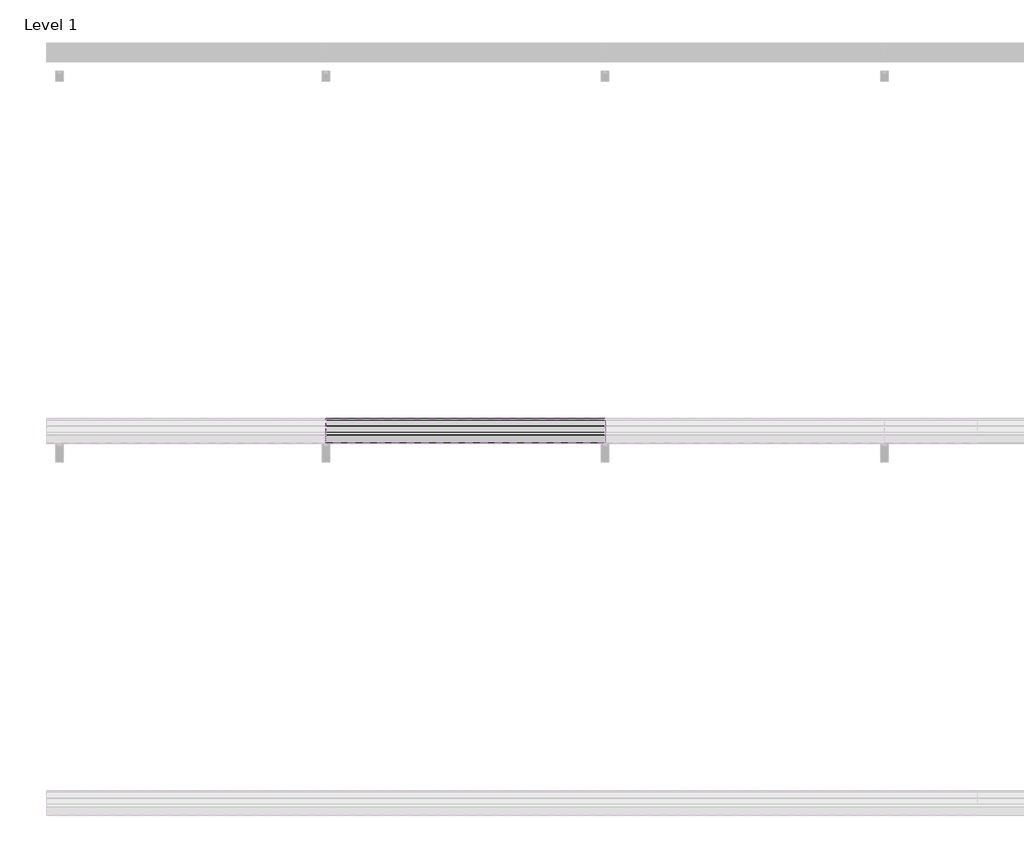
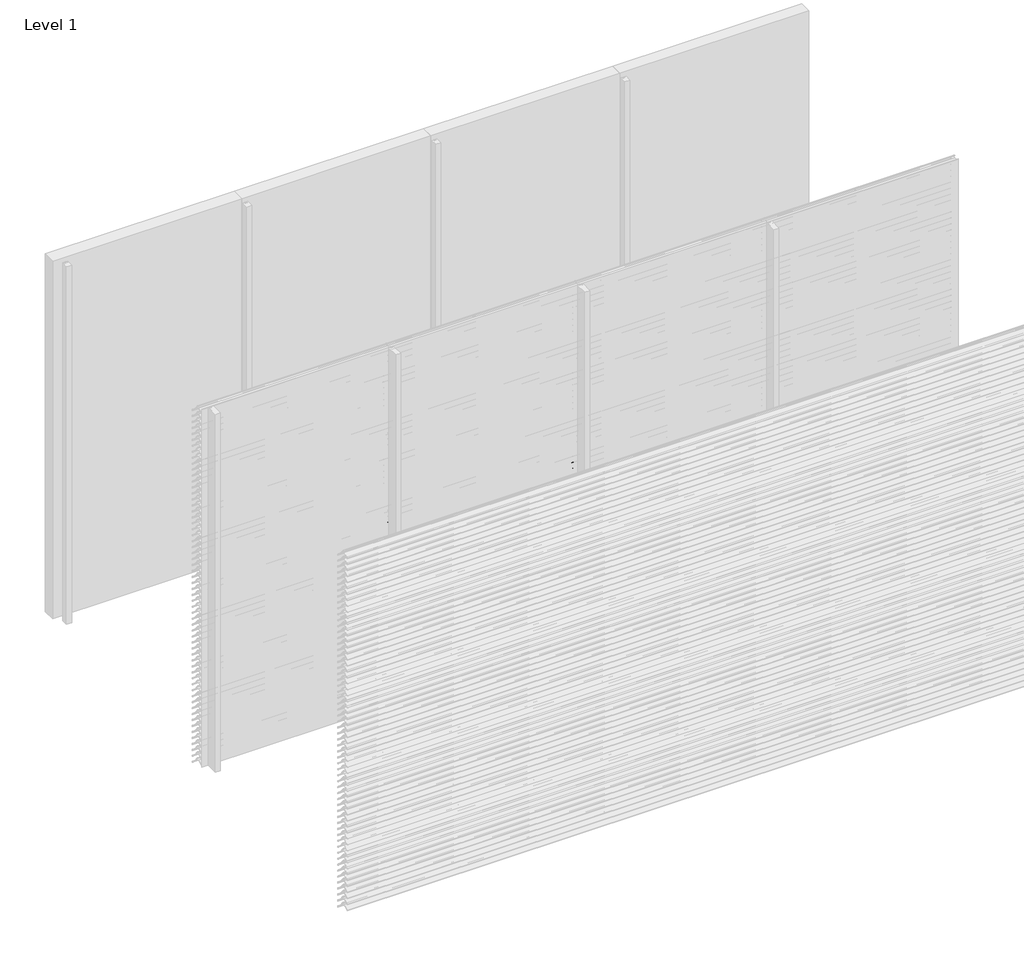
# One storey, part 63 of 173: 18 proxies.
"""IFC4 building model written with IfcOpenShell, lengths in millimetres."""

from ifc_helpers import new_model, si_unit, point, frame, frame_2d, origin, place, context, project, spatial, polyline, circle_curve, trimmed, segment, composite_curve, outline, extrude, element, save

model = new_model("IFC4")

# Units and contexts
model_context = context("Model", 3, world=origin())
ifc_project = project(units=[si_unit("LENGTHUNIT", "METRE", prefix="MILLI")], contexts=[model_context])

# Site, building, storey
site = spatial("IfcSite", under=ifc_project)
building = spatial("IfcBuilding", under=site)
storey = spatial("IfcBuildingStorey", under=building, Name="Level 1", Elevation=0.0)

# Proxies
placement = place(None, origin())
element("IfcBuildingElementProxy", 1, Name="Wall Sweeps", at=placement, inside=storey, context=model_context, shape_type="SweptSolid", body=[
    extrude(outline(composite_curve([segment(polyline([(-35998.0, 1459.1474905), (-35998.0, 1461.6227417)]), True, "CONTINUOUS"), segment(trimmed(circle_curve(frame_2d((-35951.2682172, 1416.2200208)), 65.1557103), [point((-35998.0, 1461.6227417))], [point((-35954.4014323, 1481.3003524))], False, "CARTESIAN"), True, "CONTINUOUS"), segment(polyline([(-35954.4014323, 1481.3003524), (-35934.8315836, 1481.3003524)]), True, "CONTINUOUS"), segment(trimmed(circle_curve(frame_2d((-35732.7329489, 1628.5533172)), 250.0545817), [point((-35934.8315836, 1481.3003524))], [point((-35941.4452143, 1490.8344583))], False, "CARTESIAN"), True, "CONTINUOUS"), segment(trimmed(circle_curve(frame_2d((-35953.2981792, 1485.1737835)), 13.1352966), [point((-35941.4452143, 1490.8344583))], [point((-35953.8171475, 1498.298824))], True, "CARTESIAN"), True, "CONTINUOUS"), segment(polyline([(-35953.8171475, 1498.298824), (-35953.8171475, 1500.0)]), True, "CONTINUOUS"), segment(trimmed(circle_curve(frame_2d((-35953.2981792, 1485.1737835)), 14.8352966), [point((-35953.8171475, 1500.0))], [point((-35939.9637661, 1491.6760487))], False, "CARTESIAN"), True, "CONTINUOUS"), segment(trimmed(circle_curve(frame_2d((-35732.7329489, 1628.5533172)), 248.3545817), [point((-35939.9637661, 1491.6760487))], [point((-35873.8787895, 1424.2059416))], True, "CARTESIAN"), True, "CONTINUOUS"), segment(trimmed(circle_curve(frame_2d((-35883.8147537, 1411.6649442)), 16.0), [point((-35873.8787895, 1424.2059416))], [point((-35867.8648347, 1410.4))], False, "CARTESIAN"), True, "CONTINUOUS"), segment(polyline([(-35867.8648347, 1410.4), (-35869.6712069, 1410.4)]), True, "CONTINUOUS"), segment(trimmed(circle_curve(frame_2d((-35883.8147537, 1411.6649442)), 14.2), [point((-35869.6712069, 1410.4))], [point((-35874.9518628, 1422.7594998))], True, "CARTESIAN"), True, "CONTINUOUS"), segment(trimmed(circle_curve(frame_2d((-35732.7329489, 1628.5533172)), 250.1545817), [point((-35874.9518628, 1422.7594998))], [point((-35933.7064024, 1479.6003524))], False, "CARTESIAN"), True, "CONTINUOUS"), segment(polyline([(-35933.7064024, 1479.6003524), (-35954.3602632, 1479.6003524)]), True, "CONTINUOUS"), segment(trimmed(circle_curve(frame_2d((-35951.2682172, 1416.2200208)), 63.4557103), [point((-35954.3602632, 1479.6003524))], [point((-35998.0, 1459.1474905))], True, "CARTESIAN"), True, "CONTINUOUS")], self_intersect=False)), frame((1500.0, 0.0, 0.0), z_axis=(1.0, 0.0, 0.0), x_axis=(0.0, 1.0, 0.0)), (0.0, 0.0, 1.0), 1500.0),
])
element("IfcBuildingElementProxy", 2, Name="Wall Sweeps", at=placement, inside=storey, context=model_context, shape_type="SweptSolid", body=[
    extrude(outline(composite_curve([segment(polyline([(-35998.0, 1409.1474905), (-35998.0, 1411.6227417)]), True, "CONTINUOUS"), segment(trimmed(circle_curve(frame_2d((-35951.2682172, 1366.2200208)), 65.1557103), [point((-35998.0, 1411.6227417))], [point((-35954.4014323, 1431.3003524))], False, "CARTESIAN"), True, "CONTINUOUS"), segment(polyline([(-35954.4014323, 1431.3003524), (-35934.8315836, 1431.3003524)]), True, "CONTINUOUS"), segment(trimmed(circle_curve(frame_2d((-35732.7329489, 1578.5533172)), 250.0545817), [point((-35934.8315836, 1431.3003524))], [point((-35941.4452143, 1440.8344583))], False, "CARTESIAN"), True, "CONTINUOUS"), segment(trimmed(circle_curve(frame_2d((-35953.2981792, 1435.1737835)), 13.1352966), [point((-35941.4452143, 1440.8344583))], [point((-35953.8171475, 1448.298824))], True, "CARTESIAN"), True, "CONTINUOUS"), segment(polyline([(-35953.8171475, 1448.298824), (-35953.8171475, 1450.0)]), True, "CONTINUOUS"), segment(trimmed(circle_curve(frame_2d((-35953.2981792, 1435.1737835)), 14.8352966), [point((-35953.8171475, 1450.0))], [point((-35939.9637661, 1441.6760487))], False, "CARTESIAN"), True, "CONTINUOUS"), segment(trimmed(circle_curve(frame_2d((-35732.7329489, 1578.5533172)), 248.3545817), [point((-35939.9637661, 1441.6760487))], [point((-35873.8787895, 1374.2059416))], True, "CARTESIAN"), True, "CONTINUOUS"), segment(trimmed(circle_curve(frame_2d((-35883.8147537, 1361.6649442)), 16.0), [point((-35873.8787895, 1374.2059416))], [point((-35867.8648347, 1360.4))], False, "CARTESIAN"), True, "CONTINUOUS"), segment(polyline([(-35867.8648347, 1360.4), (-35869.6712069, 1360.4)]), True, "CONTINUOUS"), segment(trimmed(circle_curve(frame_2d((-35883.8147537, 1361.6649442)), 14.2), [point((-35869.6712069, 1360.4))], [point((-35874.9518628, 1372.7594998))], True, "CARTESIAN"), True, "CONTINUOUS"), segment(trimmed(circle_curve(frame_2d((-35732.7329489, 1578.5533172)), 250.1545817), [point((-35874.9518628, 1372.7594998))], [point((-35933.7064024, 1429.6003524))], False, "CARTESIAN"), True, "CONTINUOUS"), segment(polyline([(-35933.7064024, 1429.6003524), (-35954.3602632, 1429.6003524)]), True, "CONTINUOUS"), segment(trimmed(circle_curve(frame_2d((-35951.2682172, 1366.2200208)), 63.4557103), [point((-35954.3602632, 1429.6003524))], [point((-35998.0, 1409.1474905))], True, "CARTESIAN"), True, "CONTINUOUS")], self_intersect=False)), frame((1500.0, 0.0, 0.0), z_axis=(1.0, 0.0, 0.0), x_axis=(0.0, 1.0, 0.0)), (0.0, 0.0, 1.0), 1500.0),
])
element("IfcBuildingElementProxy", 3, Name="Wall Sweeps", at=placement, inside=storey, context=model_context, shape_type="SweptSolid", body=[
    extrude(outline(composite_curve([segment(polyline([(-35998.0, 1359.1474905), (-35998.0, 1361.6227417)]), True, "CONTINUOUS"), segment(trimmed(circle_curve(frame_2d((-35951.2682172, 1316.2200208)), 65.1557103), [point((-35998.0, 1361.6227417))], [point((-35954.4014323, 1381.3003524))], False, "CARTESIAN"), True, "CONTINUOUS"), segment(polyline([(-35954.4014323, 1381.3003524), (-35934.8315836, 1381.3003524)]), True, "CONTINUOUS"), segment(trimmed(circle_curve(frame_2d((-35732.7329489, 1528.5533172)), 250.0545817), [point((-35934.8315836, 1381.3003524))], [point((-35941.4452143, 1390.8344583))], False, "CARTESIAN"), True, "CONTINUOUS"), segment(trimmed(circle_curve(frame_2d((-35953.2981792, 1385.1737835)), 13.1352966), [point((-35941.4452143, 1390.8344583))], [point((-35953.8171475, 1398.298824))], True, "CARTESIAN"), True, "CONTINUOUS"), segment(polyline([(-35953.8171475, 1398.298824), (-35953.8171475, 1400.0)]), True, "CONTINUOUS"), segment(trimmed(circle_curve(frame_2d((-35953.2981792, 1385.1737835)), 14.8352966), [point((-35953.8171475, 1400.0))], [point((-35939.9637661, 1391.6760487))], False, "CARTESIAN"), True, "CONTINUOUS"), segment(trimmed(circle_curve(frame_2d((-35732.7329489, 1528.5533172)), 248.3545817), [point((-35939.9637661, 1391.6760487))], [point((-35873.8787895, 1324.2059416))], True, "CARTESIAN"), True, "CONTINUOUS"), segment(trimmed(circle_curve(frame_2d((-35883.8147537, 1311.6649442)), 16.0), [point((-35873.8787895, 1324.2059416))], [point((-35867.8648347, 1310.4))], False, "CARTESIAN"), True, "CONTINUOUS"), segment(polyline([(-35867.8648347, 1310.4), (-35869.6712069, 1310.4)]), True, "CONTINUOUS"), segment(trimmed(circle_curve(frame_2d((-35883.8147537, 1311.6649442)), 14.2), [point((-35869.6712069, 1310.4))], [point((-35874.9518628, 1322.7594998))], True, "CARTESIAN"), True, "CONTINUOUS"), segment(trimmed(circle_curve(frame_2d((-35732.7329489, 1528.5533172)), 250.1545817), [point((-35874.9518628, 1322.7594998))], [point((-35933.7064024, 1379.6003524))], False, "CARTESIAN"), True, "CONTINUOUS"), segment(polyline([(-35933.7064024, 1379.6003524), (-35954.3602632, 1379.6003524)]), True, "CONTINUOUS"), segment(trimmed(circle_curve(frame_2d((-35951.2682172, 1316.2200208)), 63.4557103), [point((-35954.3602632, 1379.6003524))], [point((-35998.0, 1359.1474905))], True, "CARTESIAN"), True, "CONTINUOUS")], self_intersect=False)), frame((1500.0, 0.0, 0.0), z_axis=(1.0, 0.0, 0.0), x_axis=(0.0, 1.0, 0.0)), (0.0, 0.0, 1.0), 1500.0),
])
element("IfcBuildingElementProxy", 4, Name="Wall Sweeps", at=placement, inside=storey, context=model_context, shape_type="SweptSolid", body=[
    extrude(outline(composite_curve([segment(polyline([(-35998.0, 1309.1474905), (-35998.0, 1311.6227417)]), True, "CONTINUOUS"), segment(trimmed(circle_curve(frame_2d((-35951.2682172, 1266.2200208)), 65.1557103), [point((-35998.0, 1311.6227417))], [point((-35954.4014323, 1331.3003524))], False, "CARTESIAN"), True, "CONTINUOUS"), segment(polyline([(-35954.4014323, 1331.3003524), (-35934.8315836, 1331.3003524)]), True, "CONTINUOUS"), segment(trimmed(circle_curve(frame_2d((-35732.7329489, 1478.5533172)), 250.0545817), [point((-35934.8315836, 1331.3003524))], [point((-35941.4452143, 1340.8344583))], False, "CARTESIAN"), True, "CONTINUOUS"), segment(trimmed(circle_curve(frame_2d((-35953.2981792, 1335.1737835)), 13.1352966), [point((-35941.4452143, 1340.8344583))], [point((-35953.8171475, 1348.298824))], True, "CARTESIAN"), True, "CONTINUOUS"), segment(polyline([(-35953.8171475, 1348.298824), (-35953.8171475, 1350.0)]), True, "CONTINUOUS"), segment(trimmed(circle_curve(frame_2d((-35953.2981792, 1335.1737835)), 14.8352966), [point((-35953.8171475, 1350.0))], [point((-35939.9637661, 1341.6760487))], False, "CARTESIAN"), True, "CONTINUOUS"), segment(trimmed(circle_curve(frame_2d((-35732.7329489, 1478.5533172)), 248.3545817), [point((-35939.9637661, 1341.6760487))], [point((-35873.8787895, 1274.2059416))], True, "CARTESIAN"), True, "CONTINUOUS"), segment(trimmed(circle_curve(frame_2d((-35883.8147537, 1261.6649442)), 16.0), [point((-35873.8787895, 1274.2059416))], [point((-35867.8648347, 1260.4))], False, "CARTESIAN"), True, "CONTINUOUS"), segment(polyline([(-35867.8648347, 1260.4), (-35869.6712069, 1260.4)]), True, "CONTINUOUS"), segment(trimmed(circle_curve(frame_2d((-35883.8147537, 1261.6649442)), 14.2), [point((-35869.6712069, 1260.4))], [point((-35874.9518628, 1272.7594998))], True, "CARTESIAN"), True, "CONTINUOUS"), segment(trimmed(circle_curve(frame_2d((-35732.7329489, 1478.5533172)), 250.1545817), [point((-35874.9518628, 1272.7594998))], [point((-35933.7064024, 1329.6003524))], False, "CARTESIAN"), True, "CONTINUOUS"), segment(polyline([(-35933.7064024, 1329.6003524), (-35954.3602632, 1329.6003524)]), True, "CONTINUOUS"), segment(trimmed(circle_curve(frame_2d((-35951.2682172, 1266.2200208)), 63.4557103), [point((-35954.3602632, 1329.6003524))], [point((-35998.0, 1309.1474905))], True, "CARTESIAN"), True, "CONTINUOUS")], self_intersect=False)), frame((1500.0, 0.0, 0.0), z_axis=(1.0, 0.0, 0.0), x_axis=(0.0, 1.0, 0.0)), (0.0, 0.0, 1.0), 1500.0),
])
element("IfcBuildingElementProxy", 5, Name="Wall Sweeps", at=placement, inside=storey, context=model_context, shape_type="SweptSolid", body=[
    extrude(outline(composite_curve([segment(polyline([(-35998.0, 1259.1474905), (-35998.0, 1261.6227417)]), True, "CONTINUOUS"), segment(trimmed(circle_curve(frame_2d((-35951.2682172, 1216.2200208)), 65.1557103), [point((-35998.0, 1261.6227417))], [point((-35954.4014323, 1281.3003524))], False, "CARTESIAN"), True, "CONTINUOUS"), segment(polyline([(-35954.4014323, 1281.3003524), (-35934.8315836, 1281.3003524)]), True, "CONTINUOUS"), segment(trimmed(circle_curve(frame_2d((-35732.7329489, 1428.5533172)), 250.0545817), [point((-35934.8315836, 1281.3003524))], [point((-35941.4452143, 1290.8344583))], False, "CARTESIAN"), True, "CONTINUOUS"), segment(trimmed(circle_curve(frame_2d((-35953.2981792, 1285.1737835)), 13.1352966), [point((-35941.4452143, 1290.8344583))], [point((-35953.8171475, 1298.298824))], True, "CARTESIAN"), True, "CONTINUOUS"), segment(polyline([(-35953.8171475, 1298.298824), (-35953.8171475, 1300.0)]), True, "CONTINUOUS"), segment(trimmed(circle_curve(frame_2d((-35953.2981792, 1285.1737835)), 14.8352966), [point((-35953.8171475, 1300.0))], [point((-35939.9637661, 1291.6760487))], False, "CARTESIAN"), True, "CONTINUOUS"), segment(trimmed(circle_curve(frame_2d((-35732.7329489, 1428.5533172)), 248.3545817), [point((-35939.9637661, 1291.6760487))], [point((-35873.8787895, 1224.2059416))], True, "CARTESIAN"), True, "CONTINUOUS"), segment(trimmed(circle_curve(frame_2d((-35883.8147537, 1211.6649442)), 16.0), [point((-35873.8787895, 1224.2059416))], [point((-35867.8648347, 1210.4))], False, "CARTESIAN"), True, "CONTINUOUS"), segment(polyline([(-35867.8648347, 1210.4), (-35869.6712069, 1210.4)]), True, "CONTINUOUS"), segment(trimmed(circle_curve(frame_2d((-35883.8147537, 1211.6649442)), 14.2), [point((-35869.6712069, 1210.4))], [point((-35874.9518628, 1222.7594998))], True, "CARTESIAN"), True, "CONTINUOUS"), segment(trimmed(circle_curve(frame_2d((-35732.7329489, 1428.5533172)), 250.1545817), [point((-35874.9518628, 1222.7594998))], [point((-35933.7064024, 1279.6003524))], False, "CARTESIAN"), True, "CONTINUOUS"), segment(polyline([(-35933.7064024, 1279.6003524), (-35954.3602632, 1279.6003524)]), True, "CONTINUOUS"), segment(trimmed(circle_curve(frame_2d((-35951.2682172, 1216.2200208)), 63.4557103), [point((-35954.3602632, 1279.6003524))], [point((-35998.0, 1259.1474905))], True, "CARTESIAN"), True, "CONTINUOUS")], self_intersect=False)), frame((1500.0, 0.0, 0.0), z_axis=(1.0, 0.0, 0.0), x_axis=(0.0, 1.0, 0.0)), (0.0, 0.0, 1.0), 1500.0),
])
element("IfcBuildingElementProxy", 6, Name="Wall Sweeps", at=placement, inside=storey, context=model_context, shape_type="SweptSolid", body=[
    extrude(outline(composite_curve([segment(polyline([(-35998.0, 1209.1474905), (-35998.0, 1211.6227417)]), True, "CONTINUOUS"), segment(trimmed(circle_curve(frame_2d((-35951.2682172, 1166.2200208)), 65.1557103), [point((-35998.0, 1211.6227417))], [point((-35954.4014323, 1231.3003524))], False, "CARTESIAN"), True, "CONTINUOUS"), segment(polyline([(-35954.4014323, 1231.3003524), (-35934.8315836, 1231.3003524)]), True, "CONTINUOUS"), segment(trimmed(circle_curve(frame_2d((-35732.7329489, 1378.5533172)), 250.0545817), [point((-35934.8315836, 1231.3003524))], [point((-35941.4452143, 1240.8344583))], False, "CARTESIAN"), True, "CONTINUOUS"), segment(trimmed(circle_curve(frame_2d((-35953.2981792, 1235.1737835)), 13.1352966), [point((-35941.4452143, 1240.8344583))], [point((-35953.8171475, 1248.298824))], True, "CARTESIAN"), True, "CONTINUOUS"), segment(polyline([(-35953.8171475, 1248.298824), (-35953.8171475, 1250.0)]), True, "CONTINUOUS"), segment(trimmed(circle_curve(frame_2d((-35953.2981792, 1235.1737835)), 14.8352966), [point((-35953.8171475, 1250.0))], [point((-35939.9637661, 1241.6760487))], False, "CARTESIAN"), True, "CONTINUOUS"), segment(trimmed(circle_curve(frame_2d((-35732.7329489, 1378.5533172)), 248.3545817), [point((-35939.9637661, 1241.6760487))], [point((-35873.8787895, 1174.2059416))], True, "CARTESIAN"), True, "CONTINUOUS"), segment(trimmed(circle_curve(frame_2d((-35883.8147537, 1161.6649442)), 16.0), [point((-35873.8787895, 1174.2059416))], [point((-35867.8648347, 1160.4))], False, "CARTESIAN"), True, "CONTINUOUS"), segment(polyline([(-35867.8648347, 1160.4), (-35869.6712069, 1160.4)]), True, "CONTINUOUS"), segment(trimmed(circle_curve(frame_2d((-35883.8147537, 1161.6649442)), 14.2), [point((-35869.6712069, 1160.4))], [point((-35874.9518628, 1172.7594998))], True, "CARTESIAN"), True, "CONTINUOUS"), segment(trimmed(circle_curve(frame_2d((-35732.7329489, 1378.5533172)), 250.1545817), [point((-35874.9518628, 1172.7594998))], [point((-35933.7064024, 1229.6003524))], False, "CARTESIAN"), True, "CONTINUOUS"), segment(polyline([(-35933.7064024, 1229.6003524), (-35954.3602632, 1229.6003524)]), True, "CONTINUOUS"), segment(trimmed(circle_curve(frame_2d((-35951.2682172, 1166.2200208)), 63.4557103), [point((-35954.3602632, 1229.6003524))], [point((-35998.0, 1209.1474905))], True, "CARTESIAN"), True, "CONTINUOUS")], self_intersect=False)), frame((1500.0, 0.0, 0.0), z_axis=(1.0, 0.0, 0.0), x_axis=(0.0, 1.0, 0.0)), (0.0, 0.0, 1.0), 1500.0),
])
element("IfcBuildingElementProxy", 7, Name="Wall Sweeps", at=placement, inside=storey, context=model_context, shape_type="SweptSolid", body=[
    extrude(outline(composite_curve([segment(polyline([(-35998.0, 1159.1474905), (-35998.0, 1161.6227417)]), True, "CONTINUOUS"), segment(trimmed(circle_curve(frame_2d((-35951.2682172, 1116.2200208)), 65.1557103), [point((-35998.0, 1161.6227417))], [point((-35954.4014323, 1181.3003524))], False, "CARTESIAN"), True, "CONTINUOUS"), segment(polyline([(-35954.4014323, 1181.3003524), (-35934.8315836, 1181.3003524)]), True, "CONTINUOUS"), segment(trimmed(circle_curve(frame_2d((-35732.7329489, 1328.5533172)), 250.0545817), [point((-35934.8315836, 1181.3003524))], [point((-35941.4452143, 1190.8344583))], False, "CARTESIAN"), True, "CONTINUOUS"), segment(trimmed(circle_curve(frame_2d((-35953.2981792, 1185.1737835)), 13.1352966), [point((-35941.4452143, 1190.8344583))], [point((-35953.8171475, 1198.298824))], True, "CARTESIAN"), True, "CONTINUOUS"), segment(polyline([(-35953.8171475, 1198.298824), (-35953.8171475, 1200.0)]), True, "CONTINUOUS"), segment(trimmed(circle_curve(frame_2d((-35953.2981792, 1185.1737835)), 14.8352966), [point((-35953.8171475, 1200.0))], [point((-35939.9637661, 1191.6760487))], False, "CARTESIAN"), True, "CONTINUOUS"), segment(trimmed(circle_curve(frame_2d((-35732.7329489, 1328.5533172)), 248.3545817), [point((-35939.9637661, 1191.6760487))], [point((-35873.8787895, 1124.2059416))], True, "CARTESIAN"), True, "CONTINUOUS"), segment(trimmed(circle_curve(frame_2d((-35883.8147537, 1111.6649442)), 16.0), [point((-35873.8787895, 1124.2059416))], [point((-35867.8648347, 1110.4))], False, "CARTESIAN"), True, "CONTINUOUS"), segment(polyline([(-35867.8648347, 1110.4), (-35869.6712069, 1110.4)]), True, "CONTINUOUS"), segment(trimmed(circle_curve(frame_2d((-35883.8147537, 1111.6649442)), 14.2), [point((-35869.6712069, 1110.4))], [point((-35874.9518628, 1122.7594998))], True, "CARTESIAN"), True, "CONTINUOUS"), segment(trimmed(circle_curve(frame_2d((-35732.7329489, 1328.5533172)), 250.1545817), [point((-35874.9518628, 1122.7594998))], [point((-35933.7064024, 1179.6003524))], False, "CARTESIAN"), True, "CONTINUOUS"), segment(polyline([(-35933.7064024, 1179.6003524), (-35954.3602632, 1179.6003524)]), True, "CONTINUOUS"), segment(trimmed(circle_curve(frame_2d((-35951.2682172, 1116.2200208)), 63.4557103), [point((-35954.3602632, 1179.6003524))], [point((-35998.0, 1159.1474905))], True, "CARTESIAN"), True, "CONTINUOUS")], self_intersect=False)), frame((1500.0, 0.0, 0.0), z_axis=(1.0, 0.0, 0.0), x_axis=(0.0, 1.0, 0.0)), (0.0, 0.0, 1.0), 1500.0),
])
element("IfcBuildingElementProxy", 8, Name="Wall Sweeps", at=placement, inside=storey, context=model_context, shape_type="SweptSolid", body=[
    extrude(outline(composite_curve([segment(polyline([(-35998.0, 1109.1474905), (-35998.0, 1111.6227417)]), True, "CONTINUOUS"), segment(trimmed(circle_curve(frame_2d((-35951.2682172, 1066.2200208)), 65.1557103), [point((-35998.0, 1111.6227417))], [point((-35954.4014323, 1131.3003524))], False, "CARTESIAN"), True, "CONTINUOUS"), segment(polyline([(-35954.4014323, 1131.3003524), (-35934.8315836, 1131.3003524)]), True, "CONTINUOUS"), segment(trimmed(circle_curve(frame_2d((-35732.7329489, 1278.5533172)), 250.0545817), [point((-35934.8315836, 1131.3003524))], [point((-35941.4452143, 1140.8344583))], False, "CARTESIAN"), True, "CONTINUOUS"), segment(trimmed(circle_curve(frame_2d((-35953.2981792, 1135.1737835)), 13.1352966), [point((-35941.4452143, 1140.8344583))], [point((-35953.8171475, 1148.298824))], True, "CARTESIAN"), True, "CONTINUOUS"), segment(polyline([(-35953.8171475, 1148.298824), (-35953.8171475, 1150.0)]), True, "CONTINUOUS"), segment(trimmed(circle_curve(frame_2d((-35953.2981792, 1135.1737835)), 14.8352966), [point((-35953.8171475, 1150.0))], [point((-35939.9637661, 1141.6760487))], False, "CARTESIAN"), True, "CONTINUOUS"), segment(trimmed(circle_curve(frame_2d((-35732.7329489, 1278.5533172)), 248.3545817), [point((-35939.9637661, 1141.6760487))], [point((-35873.8787895, 1074.2059416))], True, "CARTESIAN"), True, "CONTINUOUS"), segment(trimmed(circle_curve(frame_2d((-35883.8147537, 1061.6649442)), 16.0), [point((-35873.8787895, 1074.2059416))], [point((-35867.8648347, 1060.4))], False, "CARTESIAN"), True, "CONTINUOUS"), segment(polyline([(-35867.8648347, 1060.4), (-35869.6712069, 1060.4)]), True, "CONTINUOUS"), segment(trimmed(circle_curve(frame_2d((-35883.8147537, 1061.6649442)), 14.2), [point((-35869.6712069, 1060.4))], [point((-35874.9518628, 1072.7594998))], True, "CARTESIAN"), True, "CONTINUOUS"), segment(trimmed(circle_curve(frame_2d((-35732.7329489, 1278.5533172)), 250.1545817), [point((-35874.9518628, 1072.7594998))], [point((-35933.7064024, 1129.6003524))], False, "CARTESIAN"), True, "CONTINUOUS"), segment(polyline([(-35933.7064024, 1129.6003524), (-35954.3602632, 1129.6003524)]), True, "CONTINUOUS"), segment(trimmed(circle_curve(frame_2d((-35951.2682172, 1066.2200208)), 63.4557103), [point((-35954.3602632, 1129.6003524))], [point((-35998.0, 1109.1474905))], True, "CARTESIAN"), True, "CONTINUOUS")], self_intersect=False)), frame((1500.0, 0.0, 0.0), z_axis=(1.0, 0.0, 0.0), x_axis=(0.0, 1.0, 0.0)), (0.0, 0.0, 1.0), 1500.0),
])
element("IfcBuildingElementProxy", 9, Name="Wall Sweeps", at=placement, inside=storey, context=model_context, shape_type="SweptSolid", body=[
    extrude(outline(composite_curve([segment(polyline([(-35998.0, 1059.1474905), (-35998.0, 1061.6227417)]), True, "CONTINUOUS"), segment(trimmed(circle_curve(frame_2d((-35951.2682172, 1016.2200208)), 65.1557103), [point((-35998.0, 1061.6227417))], [point((-35954.4014323, 1081.3003524))], False, "CARTESIAN"), True, "CONTINUOUS"), segment(polyline([(-35954.4014323, 1081.3003524), (-35934.8315836, 1081.3003524)]), True, "CONTINUOUS"), segment(trimmed(circle_curve(frame_2d((-35732.7329489, 1228.5533172)), 250.0545817), [point((-35934.8315836, 1081.3003524))], [point((-35941.4452143, 1090.8344583))], False, "CARTESIAN"), True, "CONTINUOUS"), segment(trimmed(circle_curve(frame_2d((-35953.2981792, 1085.1737835)), 13.1352966), [point((-35941.4452143, 1090.8344583))], [point((-35953.8171475, 1098.298824))], True, "CARTESIAN"), True, "CONTINUOUS"), segment(polyline([(-35953.8171475, 1098.298824), (-35953.8171475, 1100.0)]), True, "CONTINUOUS"), segment(trimmed(circle_curve(frame_2d((-35953.2981792, 1085.1737835)), 14.8352966), [point((-35953.8171475, 1100.0))], [point((-35939.9637661, 1091.6760487))], False, "CARTESIAN"), True, "CONTINUOUS"), segment(trimmed(circle_curve(frame_2d((-35732.7329489, 1228.5533172)), 248.3545817), [point((-35939.9637661, 1091.6760487))], [point((-35873.8787895, 1024.2059416))], True, "CARTESIAN"), True, "CONTINUOUS"), segment(trimmed(circle_curve(frame_2d((-35883.8147537, 1011.6649442)), 16.0), [point((-35873.8787895, 1024.2059416))], [point((-35867.8648347, 1010.4))], False, "CARTESIAN"), True, "CONTINUOUS"), segment(polyline([(-35867.8648347, 1010.4), (-35869.6712069, 1010.4)]), True, "CONTINUOUS"), segment(trimmed(circle_curve(frame_2d((-35883.8147537, 1011.6649442)), 14.2), [point((-35869.6712069, 1010.4))], [point((-35874.9518628, 1022.7594998))], True, "CARTESIAN"), True, "CONTINUOUS"), segment(trimmed(circle_curve(frame_2d((-35732.7329489, 1228.5533172)), 250.1545817), [point((-35874.9518628, 1022.7594998))], [point((-35933.7064024, 1079.6003524))], False, "CARTESIAN"), True, "CONTINUOUS"), segment(polyline([(-35933.7064024, 1079.6003524), (-35954.3602632, 1079.6003524)]), True, "CONTINUOUS"), segment(trimmed(circle_curve(frame_2d((-35951.2682172, 1016.2200208)), 63.4557103), [point((-35954.3602632, 1079.6003524))], [point((-35998.0, 1059.1474905))], True, "CARTESIAN"), True, "CONTINUOUS")], self_intersect=False)), frame((1500.0, 0.0, 0.0), z_axis=(1.0, 0.0, 0.0), x_axis=(0.0, 1.0, 0.0)), (0.0, 0.0, 1.0), 1500.0),
])
element("IfcBuildingElementProxy", 10, Name="Wall Sweeps", at=placement, inside=storey, context=model_context, shape_type="SweptSolid", body=[
    extrude(outline(composite_curve([segment(polyline([(-35998.0, 1009.1474905), (-35998.0, 1011.6227417)]), True, "CONTINUOUS"), segment(trimmed(circle_curve(frame_2d((-35951.2682172, 966.2200208)), 65.1557103), [point((-35998.0, 1011.6227417))], [point((-35954.4014323, 1031.3003524))], False, "CARTESIAN"), True, "CONTINUOUS"), segment(polyline([(-35954.4014323, 1031.3003524), (-35934.8315836, 1031.3003524)]), True, "CONTINUOUS"), segment(trimmed(circle_curve(frame_2d((-35732.7329489, 1178.5533172)), 250.0545817), [point((-35934.8315836, 1031.3003524))], [point((-35941.4452143, 1040.8344583))], False, "CARTESIAN"), True, "CONTINUOUS"), segment(trimmed(circle_curve(frame_2d((-35953.2981792, 1035.1737835)), 13.1352966), [point((-35941.4452143, 1040.8344583))], [point((-35953.8171475, 1048.298824))], True, "CARTESIAN"), True, "CONTINUOUS"), segment(polyline([(-35953.8171475, 1048.298824), (-35953.8171475, 1050.0)]), True, "CONTINUOUS"), segment(trimmed(circle_curve(frame_2d((-35953.2981792, 1035.1737835)), 14.8352966), [point((-35953.8171475, 1050.0))], [point((-35939.9637661, 1041.6760487))], False, "CARTESIAN"), True, "CONTINUOUS"), segment(trimmed(circle_curve(frame_2d((-35732.7329489, 1178.5533172)), 248.3545817), [point((-35939.9637661, 1041.6760487))], [point((-35873.8787895, 974.2059416))], True, "CARTESIAN"), True, "CONTINUOUS"), segment(trimmed(circle_curve(frame_2d((-35883.8147537, 961.6649442)), 16.0), [point((-35873.8787895, 974.2059416))], [point((-35867.8648347, 960.4))], False, "CARTESIAN"), True, "CONTINUOUS"), segment(polyline([(-35867.8648347, 960.4), (-35869.6712069, 960.4)]), True, "CONTINUOUS"), segment(trimmed(circle_curve(frame_2d((-35883.8147537, 961.6649442)), 14.2), [point((-35869.6712069, 960.4))], [point((-35874.9518628, 972.7594998))], True, "CARTESIAN"), True, "CONTINUOUS"), segment(trimmed(circle_curve(frame_2d((-35732.7329489, 1178.5533172)), 250.1545817), [point((-35874.9518628, 972.7594998))], [point((-35933.7064024, 1029.6003524))], False, "CARTESIAN"), True, "CONTINUOUS"), segment(polyline([(-35933.7064024, 1029.6003524), (-35954.3602632, 1029.6003524)]), True, "CONTINUOUS"), segment(trimmed(circle_curve(frame_2d((-35951.2682172, 966.2200208)), 63.4557103), [point((-35954.3602632, 1029.6003524))], [point((-35998.0, 1009.1474905))], True, "CARTESIAN"), True, "CONTINUOUS")], self_intersect=False)), frame((1500.0, 0.0, 0.0), z_axis=(1.0, 0.0, 0.0), x_axis=(0.0, 1.0, 0.0)), (0.0, 0.0, 1.0), 1500.0),
])
element("IfcBuildingElementProxy", 11, Name="Wall Sweeps", at=placement, inside=storey, context=model_context, shape_type="SweptSolid", body=[
    extrude(outline(composite_curve([segment(polyline([(-35998.0, 959.1474905), (-35998.0, 961.6227417)]), True, "CONTINUOUS"), segment(trimmed(circle_curve(frame_2d((-35951.2682172, 916.2200208)), 65.1557103), [point((-35998.0, 961.6227417))], [point((-35954.4014323, 981.3003524))], False, "CARTESIAN"), True, "CONTINUOUS"), segment(polyline([(-35954.4014323, 981.3003524), (-35934.8315836, 981.3003524)]), True, "CONTINUOUS"), segment(trimmed(circle_curve(frame_2d((-35732.7329489, 1128.5533172)), 250.0545817), [point((-35934.8315836, 981.3003524))], [point((-35941.4452143, 990.8344583))], False, "CARTESIAN"), True, "CONTINUOUS"), segment(trimmed(circle_curve(frame_2d((-35953.2981792, 985.1737835)), 13.1352966), [point((-35941.4452143, 990.8344583))], [point((-35953.8171475, 998.298824))], True, "CARTESIAN"), True, "CONTINUOUS"), segment(polyline([(-35953.8171475, 998.298824), (-35953.8171475, 1000.0)]), True, "CONTINUOUS"), segment(trimmed(circle_curve(frame_2d((-35953.2981792, 985.1737835)), 14.8352966), [point((-35953.8171475, 1000.0))], [point((-35939.9637661, 991.6760487))], False, "CARTESIAN"), True, "CONTINUOUS"), segment(trimmed(circle_curve(frame_2d((-35732.7329489, 1128.5533172)), 248.3545817), [point((-35939.9637661, 991.6760487))], [point((-35873.8787895, 924.2059416))], True, "CARTESIAN"), True, "CONTINUOUS"), segment(trimmed(circle_curve(frame_2d((-35883.8147537, 911.6649442)), 16.0), [point((-35873.8787895, 924.2059416))], [point((-35867.8648347, 910.4))], False, "CARTESIAN"), True, "CONTINUOUS"), segment(polyline([(-35867.8648347, 910.4), (-35869.6712069, 910.4)]), True, "CONTINUOUS"), segment(trimmed(circle_curve(frame_2d((-35883.8147537, 911.6649442)), 14.2), [point((-35869.6712069, 910.4))], [point((-35874.9518628, 922.7594998))], True, "CARTESIAN"), True, "CONTINUOUS"), segment(trimmed(circle_curve(frame_2d((-35732.7329489, 1128.5533172)), 250.1545817), [point((-35874.9518628, 922.7594998))], [point((-35933.7064024, 979.6003524))], False, "CARTESIAN"), True, "CONTINUOUS"), segment(polyline([(-35933.7064024, 979.6003524), (-35954.3602632, 979.6003524)]), True, "CONTINUOUS"), segment(trimmed(circle_curve(frame_2d((-35951.2682172, 916.2200208)), 63.4557103), [point((-35954.3602632, 979.6003524))], [point((-35998.0, 959.1474905))], True, "CARTESIAN"), True, "CONTINUOUS")], self_intersect=False)), frame((1500.0, 0.0, 0.0), z_axis=(1.0, 0.0, 0.0), x_axis=(0.0, 1.0, 0.0)), (0.0, 0.0, 1.0), 1500.0),
])
element("IfcBuildingElementProxy", 12, Name="Wall Sweeps", at=placement, inside=storey, context=model_context, shape_type="SweptSolid", body=[
    extrude(outline(composite_curve([segment(polyline([(-35998.0, 909.1474905), (-35998.0, 911.6227417)]), True, "CONTINUOUS"), segment(trimmed(circle_curve(frame_2d((-35951.2682172, 866.2200208)), 65.1557103), [point((-35998.0, 911.6227417))], [point((-35954.4014323, 931.3003524))], False, "CARTESIAN"), True, "CONTINUOUS"), segment(polyline([(-35954.4014323, 931.3003524), (-35934.8315836, 931.3003524)]), True, "CONTINUOUS"), segment(trimmed(circle_curve(frame_2d((-35732.7329489, 1078.5533172)), 250.0545817), [point((-35934.8315836, 931.3003524))], [point((-35941.4452143, 940.8344583))], False, "CARTESIAN"), True, "CONTINUOUS"), segment(trimmed(circle_curve(frame_2d((-35953.2981792, 935.1737835)), 13.1352966), [point((-35941.4452143, 940.8344583))], [point((-35953.8171475, 948.298824))], True, "CARTESIAN"), True, "CONTINUOUS"), segment(polyline([(-35953.8171475, 948.298824), (-35953.8171475, 950.0)]), True, "CONTINUOUS"), segment(trimmed(circle_curve(frame_2d((-35953.2981792, 935.1737835)), 14.8352966), [point((-35953.8171475, 950.0))], [point((-35939.9637661, 941.6760487))], False, "CARTESIAN"), True, "CONTINUOUS"), segment(trimmed(circle_curve(frame_2d((-35732.7329489, 1078.5533172)), 248.3545817), [point((-35939.9637661, 941.6760487))], [point((-35873.8787895, 874.2059416))], True, "CARTESIAN"), True, "CONTINUOUS"), segment(trimmed(circle_curve(frame_2d((-35883.8147537, 861.6649442)), 16.0), [point((-35873.8787895, 874.2059416))], [point((-35867.8648347, 860.4))], False, "CARTESIAN"), True, "CONTINUOUS"), segment(polyline([(-35867.8648347, 860.4), (-35869.6712069, 860.4)]), True, "CONTINUOUS"), segment(trimmed(circle_curve(frame_2d((-35883.8147537, 861.6649442)), 14.2), [point((-35869.6712069, 860.4))], [point((-35874.9518628, 872.7594998))], True, "CARTESIAN"), True, "CONTINUOUS"), segment(trimmed(circle_curve(frame_2d((-35732.7329489, 1078.5533172)), 250.1545817), [point((-35874.9518628, 872.7594998))], [point((-35933.7064024, 929.6003524))], False, "CARTESIAN"), True, "CONTINUOUS"), segment(polyline([(-35933.7064024, 929.6003524), (-35954.3602632, 929.6003524)]), True, "CONTINUOUS"), segment(trimmed(circle_curve(frame_2d((-35951.2682172, 866.2200208)), 63.4557103), [point((-35954.3602632, 929.6003524))], [point((-35998.0, 909.1474905))], True, "CARTESIAN"), True, "CONTINUOUS")], self_intersect=False)), frame((1500.0, 0.0, 0.0), z_axis=(1.0, 0.0, 0.0), x_axis=(0.0, 1.0, 0.0)), (0.0, 0.0, 1.0), 1500.0),
])
element("IfcBuildingElementProxy", 13, Name="Wall Sweeps", at=placement, inside=storey, context=model_context, shape_type="SweptSolid", body=[
    extrude(outline(composite_curve([segment(polyline([(-35998.0, 859.1474905), (-35998.0, 861.6227417)]), True, "CONTINUOUS"), segment(trimmed(circle_curve(frame_2d((-35951.2682172, 816.2200208)), 65.1557103), [point((-35998.0, 861.6227417))], [point((-35954.4014323, 881.3003524))], False, "CARTESIAN"), True, "CONTINUOUS"), segment(polyline([(-35954.4014323, 881.3003524), (-35934.8315836, 881.3003524)]), True, "CONTINUOUS"), segment(trimmed(circle_curve(frame_2d((-35732.7329489, 1028.5533172)), 250.0545817), [point((-35934.8315836, 881.3003524))], [point((-35941.4452143, 890.8344583))], False, "CARTESIAN"), True, "CONTINUOUS"), segment(trimmed(circle_curve(frame_2d((-35953.2981792, 885.1737835)), 13.1352966), [point((-35941.4452143, 890.8344583))], [point((-35953.8171475, 898.298824))], True, "CARTESIAN"), True, "CONTINUOUS"), segment(polyline([(-35953.8171475, 898.298824), (-35953.8171475, 900.0)]), True, "CONTINUOUS"), segment(trimmed(circle_curve(frame_2d((-35953.2981792, 885.1737835)), 14.8352966), [point((-35953.8171475, 900.0))], [point((-35939.9637661, 891.6760487))], False, "CARTESIAN"), True, "CONTINUOUS"), segment(trimmed(circle_curve(frame_2d((-35732.7329489, 1028.5533172)), 248.3545817), [point((-35939.9637661, 891.6760487))], [point((-35873.8787895, 824.2059416))], True, "CARTESIAN"), True, "CONTINUOUS"), segment(trimmed(circle_curve(frame_2d((-35883.8147537, 811.6649442)), 16.0), [point((-35873.8787895, 824.2059416))], [point((-35867.8648347, 810.4))], False, "CARTESIAN"), True, "CONTINUOUS"), segment(polyline([(-35867.8648347, 810.4), (-35869.6712069, 810.4)]), True, "CONTINUOUS"), segment(trimmed(circle_curve(frame_2d((-35883.8147537, 811.6649442)), 14.2), [point((-35869.6712069, 810.4))], [point((-35874.9518628, 822.7594998))], True, "CARTESIAN"), True, "CONTINUOUS"), segment(trimmed(circle_curve(frame_2d((-35732.7329489, 1028.5533172)), 250.1545817), [point((-35874.9518628, 822.7594998))], [point((-35933.7064024, 879.6003524))], False, "CARTESIAN"), True, "CONTINUOUS"), segment(polyline([(-35933.7064024, 879.6003524), (-35954.3602632, 879.6003524)]), True, "CONTINUOUS"), segment(trimmed(circle_curve(frame_2d((-35951.2682172, 816.2200208)), 63.4557103), [point((-35954.3602632, 879.6003524))], [point((-35998.0, 859.1474905))], True, "CARTESIAN"), True, "CONTINUOUS")], self_intersect=False)), frame((1500.0, 0.0, 0.0), z_axis=(1.0, 0.0, 0.0), x_axis=(0.0, 1.0, 0.0)), (0.0, 0.0, 1.0), 1500.0),
])
element("IfcBuildingElementProxy", 14, Name="Wall Sweeps", at=placement, inside=storey, context=model_context, shape_type="SweptSolid", body=[
    extrude(outline(composite_curve([segment(polyline([(-35998.0, 809.1474905), (-35998.0, 811.6227417)]), True, "CONTINUOUS"), segment(trimmed(circle_curve(frame_2d((-35951.2682172, 766.2200208)), 65.1557103), [point((-35998.0, 811.6227417))], [point((-35954.4014323, 831.3003524))], False, "CARTESIAN"), True, "CONTINUOUS"), segment(polyline([(-35954.4014323, 831.3003524), (-35934.8315836, 831.3003524)]), True, "CONTINUOUS"), segment(trimmed(circle_curve(frame_2d((-35732.7329489, 978.5533172)), 250.0545817), [point((-35934.8315836, 831.3003524))], [point((-35941.4452143, 840.8344583))], False, "CARTESIAN"), True, "CONTINUOUS"), segment(trimmed(circle_curve(frame_2d((-35953.2981792, 835.1737835)), 13.1352966), [point((-35941.4452143, 840.8344583))], [point((-35953.8171475, 848.298824))], True, "CARTESIAN"), True, "CONTINUOUS"), segment(polyline([(-35953.8171475, 848.298824), (-35953.8171475, 850.0)]), True, "CONTINUOUS"), segment(trimmed(circle_curve(frame_2d((-35953.2981792, 835.1737835)), 14.8352966), [point((-35953.8171475, 850.0))], [point((-35939.9637661, 841.6760487))], False, "CARTESIAN"), True, "CONTINUOUS"), segment(trimmed(circle_curve(frame_2d((-35732.7329489, 978.5533172)), 248.3545817), [point((-35939.9637661, 841.6760487))], [point((-35873.8787895, 774.2059416))], True, "CARTESIAN"), True, "CONTINUOUS"), segment(trimmed(circle_curve(frame_2d((-35883.8147537, 761.6649442)), 16.0), [point((-35873.8787895, 774.2059416))], [point((-35867.8648347, 760.4))], False, "CARTESIAN"), True, "CONTINUOUS"), segment(polyline([(-35867.8648347, 760.4), (-35869.6712069, 760.4)]), True, "CONTINUOUS"), segment(trimmed(circle_curve(frame_2d((-35883.8147537, 761.6649442)), 14.2), [point((-35869.6712069, 760.4))], [point((-35874.9518628, 772.7594998))], True, "CARTESIAN"), True, "CONTINUOUS"), segment(trimmed(circle_curve(frame_2d((-35732.7329489, 978.5533172)), 250.1545817), [point((-35874.9518628, 772.7594998))], [point((-35933.7064024, 829.6003524))], False, "CARTESIAN"), True, "CONTINUOUS"), segment(polyline([(-35933.7064024, 829.6003524), (-35954.3602632, 829.6003524)]), True, "CONTINUOUS"), segment(trimmed(circle_curve(frame_2d((-35951.2682172, 766.2200208)), 63.4557103), [point((-35954.3602632, 829.6003524))], [point((-35998.0, 809.1474905))], True, "CARTESIAN"), True, "CONTINUOUS")], self_intersect=False)), frame((1500.0, 0.0, 0.0), z_axis=(1.0, 0.0, 0.0), x_axis=(0.0, 1.0, 0.0)), (0.0, 0.0, 1.0), 1500.0),
])
element("IfcBuildingElementProxy", 15, Name="Wall Sweeps", at=placement, inside=storey, context=model_context, shape_type="SweptSolid", body=[
    extrude(outline(composite_curve([segment(polyline([(-35998.0, 759.1474905), (-35998.0, 761.6227417)]), True, "CONTINUOUS"), segment(trimmed(circle_curve(frame_2d((-35951.2682172, 716.2200208)), 65.1557103), [point((-35998.0, 761.6227417))], [point((-35954.4014323, 781.3003524))], False, "CARTESIAN"), True, "CONTINUOUS"), segment(polyline([(-35954.4014323, 781.3003524), (-35934.8315836, 781.3003524)]), True, "CONTINUOUS"), segment(trimmed(circle_curve(frame_2d((-35732.7329489, 928.5533172)), 250.0545817), [point((-35934.8315836, 781.3003524))], [point((-35941.4452143, 790.8344583))], False, "CARTESIAN"), True, "CONTINUOUS"), segment(trimmed(circle_curve(frame_2d((-35953.2981792, 785.1737835)), 13.1352966), [point((-35941.4452143, 790.8344583))], [point((-35953.8171475, 798.298824))], True, "CARTESIAN"), True, "CONTINUOUS"), segment(polyline([(-35953.8171475, 798.298824), (-35953.8171475, 800.0)]), True, "CONTINUOUS"), segment(trimmed(circle_curve(frame_2d((-35953.2981792, 785.1737835)), 14.8352966), [point((-35953.8171475, 800.0))], [point((-35939.9637661, 791.6760487))], False, "CARTESIAN"), True, "CONTINUOUS"), segment(trimmed(circle_curve(frame_2d((-35732.7329489, 928.5533172)), 248.3545817), [point((-35939.9637661, 791.6760487))], [point((-35873.8787895, 724.2059416))], True, "CARTESIAN"), True, "CONTINUOUS"), segment(trimmed(circle_curve(frame_2d((-35883.8147537, 711.6649442)), 16.0), [point((-35873.8787895, 724.2059416))], [point((-35867.8648347, 710.4))], False, "CARTESIAN"), True, "CONTINUOUS"), segment(polyline([(-35867.8648347, 710.4), (-35869.6712069, 710.4)]), True, "CONTINUOUS"), segment(trimmed(circle_curve(frame_2d((-35883.8147537, 711.6649442)), 14.2), [point((-35869.6712069, 710.4))], [point((-35874.9518628, 722.7594998))], True, "CARTESIAN"), True, "CONTINUOUS"), segment(trimmed(circle_curve(frame_2d((-35732.7329489, 928.5533172)), 250.1545817), [point((-35874.9518628, 722.7594998))], [point((-35933.7064024, 779.6003524))], False, "CARTESIAN"), True, "CONTINUOUS"), segment(polyline([(-35933.7064024, 779.6003524), (-35954.3602632, 779.6003524)]), True, "CONTINUOUS"), segment(trimmed(circle_curve(frame_2d((-35951.2682172, 716.2200208)), 63.4557103), [point((-35954.3602632, 779.6003524))], [point((-35998.0, 759.1474905))], True, "CARTESIAN"), True, "CONTINUOUS")], self_intersect=False)), frame((1500.0, 0.0, 0.0), z_axis=(1.0, 0.0, 0.0), x_axis=(0.0, 1.0, 0.0)), (0.0, 0.0, 1.0), 1500.0),
])
element("IfcBuildingElementProxy", 16, Name="Wall Sweeps", at=placement, inside=storey, context=model_context, shape_type="SweptSolid", body=[
    extrude(outline(composite_curve([segment(polyline([(-35998.0, 709.1474905), (-35998.0, 711.6227417)]), True, "CONTINUOUS"), segment(trimmed(circle_curve(frame_2d((-35951.2682172, 666.2200208)), 65.1557103), [point((-35998.0, 711.6227417))], [point((-35954.4014323, 731.3003524))], False, "CARTESIAN"), True, "CONTINUOUS"), segment(polyline([(-35954.4014323, 731.3003524), (-35934.8315836, 731.3003524)]), True, "CONTINUOUS"), segment(trimmed(circle_curve(frame_2d((-35732.7329489, 878.5533172)), 250.0545817), [point((-35934.8315836, 731.3003524))], [point((-35941.4452143, 740.8344583))], False, "CARTESIAN"), True, "CONTINUOUS"), segment(trimmed(circle_curve(frame_2d((-35953.2981792, 735.1737835)), 13.1352966), [point((-35941.4452143, 740.8344583))], [point((-35953.8171475, 748.298824))], True, "CARTESIAN"), True, "CONTINUOUS"), segment(polyline([(-35953.8171475, 748.298824), (-35953.8171475, 750.0)]), True, "CONTINUOUS"), segment(trimmed(circle_curve(frame_2d((-35953.2981792, 735.1737835)), 14.8352966), [point((-35953.8171475, 750.0))], [point((-35939.9637661, 741.6760487))], False, "CARTESIAN"), True, "CONTINUOUS"), segment(trimmed(circle_curve(frame_2d((-35732.7329489, 878.5533172)), 248.3545817), [point((-35939.9637661, 741.6760487))], [point((-35873.8787895, 674.2059416))], True, "CARTESIAN"), True, "CONTINUOUS"), segment(trimmed(circle_curve(frame_2d((-35883.8147537, 661.6649442)), 16.0), [point((-35873.8787895, 674.2059416))], [point((-35867.8648347, 660.4))], False, "CARTESIAN"), True, "CONTINUOUS"), segment(polyline([(-35867.8648347, 660.4), (-35869.6712069, 660.4)]), True, "CONTINUOUS"), segment(trimmed(circle_curve(frame_2d((-35883.8147537, 661.6649442)), 14.2), [point((-35869.6712069, 660.4))], [point((-35874.9518628, 672.7594998))], True, "CARTESIAN"), True, "CONTINUOUS"), segment(trimmed(circle_curve(frame_2d((-35732.7329489, 878.5533172)), 250.1545817), [point((-35874.9518628, 672.7594998))], [point((-35933.7064024, 729.6003524))], False, "CARTESIAN"), True, "CONTINUOUS"), segment(polyline([(-35933.7064024, 729.6003524), (-35954.3602632, 729.6003524)]), True, "CONTINUOUS"), segment(trimmed(circle_curve(frame_2d((-35951.2682172, 666.2200208)), 63.4557103), [point((-35954.3602632, 729.6003524))], [point((-35998.0, 709.1474905))], True, "CARTESIAN"), True, "CONTINUOUS")], self_intersect=False)), frame((1500.0, 0.0, 0.0), z_axis=(1.0, 0.0, 0.0), x_axis=(0.0, 1.0, 0.0)), (0.0, 0.0, 1.0), 1500.0),
])
element("IfcBuildingElementProxy", 17, Name="Wall Sweeps", at=placement, inside=storey, context=model_context, shape_type="SweptSolid", body=[
    extrude(outline(composite_curve([segment(polyline([(-35998.0, 659.1474905), (-35998.0, 661.6227417)]), True, "CONTINUOUS"), segment(trimmed(circle_curve(frame_2d((-35951.2682172, 616.2200208)), 65.1557103), [point((-35998.0, 661.6227417))], [point((-35954.4014323, 681.3003524))], False, "CARTESIAN"), True, "CONTINUOUS"), segment(polyline([(-35954.4014323, 681.3003524), (-35934.8315836, 681.3003524)]), True, "CONTINUOUS"), segment(trimmed(circle_curve(frame_2d((-35732.7329489, 828.5533172)), 250.0545817), [point((-35934.8315836, 681.3003524))], [point((-35941.4452143, 690.8344583))], False, "CARTESIAN"), True, "CONTINUOUS"), segment(trimmed(circle_curve(frame_2d((-35953.2981792, 685.1737835)), 13.1352966), [point((-35941.4452143, 690.8344583))], [point((-35953.8171475, 698.298824))], True, "CARTESIAN"), True, "CONTINUOUS"), segment(polyline([(-35953.8171475, 698.298824), (-35953.8171475, 700.0)]), True, "CONTINUOUS"), segment(trimmed(circle_curve(frame_2d((-35953.2981792, 685.1737835)), 14.8352966), [point((-35953.8171475, 700.0))], [point((-35939.9637661, 691.6760487))], False, "CARTESIAN"), True, "CONTINUOUS"), segment(trimmed(circle_curve(frame_2d((-35732.7329489, 828.5533172)), 248.3545817), [point((-35939.9637661, 691.6760487))], [point((-35873.8787895, 624.2059416))], True, "CARTESIAN"), True, "CONTINUOUS"), segment(trimmed(circle_curve(frame_2d((-35883.8147537, 611.6649442)), 16.0), [point((-35873.8787895, 624.2059416))], [point((-35867.8648347, 610.4))], False, "CARTESIAN"), True, "CONTINUOUS"), segment(polyline([(-35867.8648347, 610.4), (-35869.6712069, 610.4)]), True, "CONTINUOUS"), segment(trimmed(circle_curve(frame_2d((-35883.8147537, 611.6649442)), 14.2), [point((-35869.6712069, 610.4))], [point((-35874.9518628, 622.7594998))], True, "CARTESIAN"), True, "CONTINUOUS"), segment(trimmed(circle_curve(frame_2d((-35732.7329489, 828.5533172)), 250.1545817), [point((-35874.9518628, 622.7594998))], [point((-35933.7064024, 679.6003524))], False, "CARTESIAN"), True, "CONTINUOUS"), segment(polyline([(-35933.7064024, 679.6003524), (-35954.3602632, 679.6003524)]), True, "CONTINUOUS"), segment(trimmed(circle_curve(frame_2d((-35951.2682172, 616.2200208)), 63.4557103), [point((-35954.3602632, 679.6003524))], [point((-35998.0, 659.1474905))], True, "CARTESIAN"), True, "CONTINUOUS")], self_intersect=False)), frame((1500.0, 0.0, 0.0), z_axis=(1.0, 0.0, 0.0), x_axis=(0.0, 1.0, 0.0)), (0.0, 0.0, 1.0), 1500.0),
])
element("IfcBuildingElementProxy", 18, Name="Wall Sweeps", at=placement, inside=storey, context=model_context, shape_type="SweptSolid", body=[
    extrude(outline(composite_curve([segment(polyline([(-35998.0, 609.1474905), (-35998.0, 611.6227417)]), True, "CONTINUOUS"), segment(trimmed(circle_curve(frame_2d((-35951.2682172, 566.2200208)), 65.1557103), [point((-35998.0, 611.6227417))], [point((-35954.4014323, 631.3003524))], False, "CARTESIAN"), True, "CONTINUOUS"), segment(polyline([(-35954.4014323, 631.3003524), (-35934.8315836, 631.3003524)]), True, "CONTINUOUS"), segment(trimmed(circle_curve(frame_2d((-35732.7329489, 778.5533172)), 250.0545817), [point((-35934.8315836, 631.3003524))], [point((-35941.4452143, 640.8344583))], False, "CARTESIAN"), True, "CONTINUOUS"), segment(trimmed(circle_curve(frame_2d((-35953.2981792, 635.1737835)), 13.1352966), [point((-35941.4452143, 640.8344583))], [point((-35953.8171475, 648.298824))], True, "CARTESIAN"), True, "CONTINUOUS"), segment(polyline([(-35953.8171475, 648.298824), (-35953.8171475, 650.0)]), True, "CONTINUOUS"), segment(trimmed(circle_curve(frame_2d((-35953.2981792, 635.1737835)), 14.8352966), [point((-35953.8171475, 650.0))], [point((-35939.9637661, 641.6760487))], False, "CARTESIAN"), True, "CONTINUOUS"), segment(trimmed(circle_curve(frame_2d((-35732.7329489, 778.5533172)), 248.3545817), [point((-35939.9637661, 641.6760487))], [point((-35873.8787895, 574.2059416))], True, "CARTESIAN"), True, "CONTINUOUS"), segment(trimmed(circle_curve(frame_2d((-35883.8147537, 561.6649442)), 16.0), [point((-35873.8787895, 574.2059416))], [point((-35867.8648347, 560.4))], False, "CARTESIAN"), True, "CONTINUOUS"), segment(polyline([(-35867.8648347, 560.4), (-35869.6712069, 560.4)]), True, "CONTINUOUS"), segment(trimmed(circle_curve(frame_2d((-35883.8147537, 561.6649442)), 14.2), [point((-35869.6712069, 560.4))], [point((-35874.9518628, 572.7594998))], True, "CARTESIAN"), True, "CONTINUOUS"), segment(trimmed(circle_curve(frame_2d((-35732.7329489, 778.5533172)), 250.1545817), [point((-35874.9518628, 572.7594998))], [point((-35933.7064024, 629.6003524))], False, "CARTESIAN"), True, "CONTINUOUS"), segment(polyline([(-35933.7064024, 629.6003524), (-35954.3602632, 629.6003524)]), True, "CONTINUOUS"), segment(trimmed(circle_curve(frame_2d((-35951.2682172, 566.2200208)), 63.4557103), [point((-35954.3602632, 629.6003524))], [point((-35998.0, 609.1474905))], True, "CARTESIAN"), True, "CONTINUOUS")], self_intersect=False)), frame((1500.0, 0.0, 0.0), z_axis=(1.0, 0.0, 0.0), x_axis=(0.0, 1.0, 0.0)), (0.0, 0.0, 1.0), 1500.0),
])

save(model, "model.ifc")
